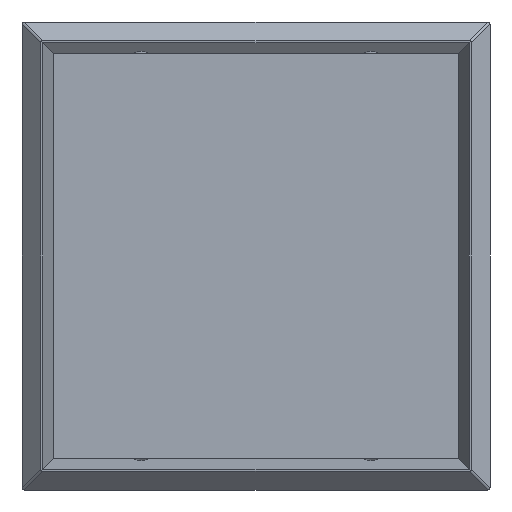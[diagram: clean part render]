
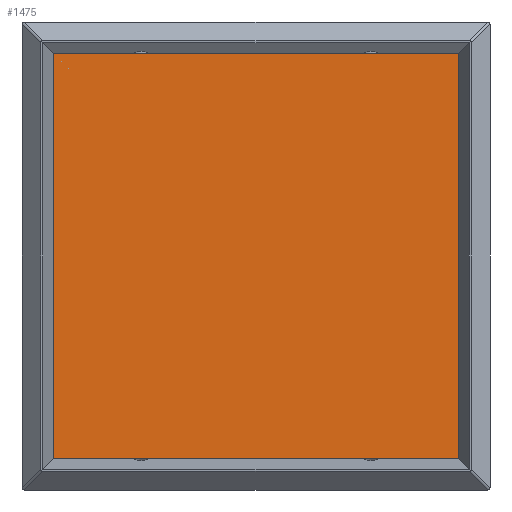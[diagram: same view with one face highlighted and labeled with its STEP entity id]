
A CAD part, front view. The second image highlights one B-rep face of the part: STEP entity #1475.
In plain terms, the highlighted planar face has unit normal (0, -1, 0).
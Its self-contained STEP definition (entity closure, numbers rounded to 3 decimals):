
#495 = CARTESIAN_POINT ( 'NONE',  ( 162.5, 0., 162.5 ) ) ;
#631 = EDGE_CURVE ( 'NONE', #1828, #1833, #8501, .T. ) ;
#811 = EDGE_CURVE ( 'NONE', #1706, #1822, #8878, .T. ) ;
#822 = EDGE_CURVE ( 'NONE', #1833, #1706, #8886, .T. ) ;
#824 = EDGE_CURVE ( 'NONE', #1822, #1828, #8904, .T. ) ;
#1211 = CARTESIAN_POINT ( 'NONE',  ( 162.5, 0., -162.5 ) ) ;
#1231 = CARTESIAN_POINT ( 'NONE',  ( -162.5, 0., -162.5 ) ) ;
#1242 = CARTESIAN_POINT ( 'NONE',  ( -162.5, 0., 162.5 ) ) ;
#1475 = ADVANCED_FACE ( 'NONE', ( #7028 ), #6773, .F. ) ;
#1706 = VERTEX_POINT ( 'NONE', #495 ) ;
#1822 = VERTEX_POINT ( 'NONE', #1211 ) ;
#1828 = VERTEX_POINT ( 'NONE', #1231 ) ;
#1833 = VERTEX_POINT ( 'NONE', #1242 ) ;
#2551 = EDGE_LOOP ( 'NONE', ( #5449, #5441, #5452, #5460 ) ) ;
#3986 = CARTESIAN_POINT ( 'NONE',  ( -162.5, 0., -162.5 ) ) ;
#3996 = DIRECTION ( 'NONE',  ( 0., 0., 1. ) ) ;
#4766 = AXIS2_PLACEMENT_3D ( 'NONE', #6682, #6757, #6724 ) ;
#5441 = ORIENTED_EDGE ( 'NONE', *, *, #822, .F. ) ;
#5449 = ORIENTED_EDGE ( 'NONE', *, *, #811, .F. ) ;
#5452 = ORIENTED_EDGE ( 'NONE', *, *, #631, .F. ) ;
#5460 = ORIENTED_EDGE ( 'NONE', *, *, #824, .F. ) ;
#6042 = CARTESIAN_POINT ( 'NONE',  ( -162.5, 0., -162.5 ) ) ;
#6070 = CARTESIAN_POINT ( 'NONE',  ( -162.5, 0., 162.5 ) ) ;
#6071 = CARTESIAN_POINT ( 'NONE',  ( 162.5, 0., -162.5 ) ) ;
#6074 = DIRECTION ( 'NONE',  ( 0., 0., -1. ) ) ;
#6116 = DIRECTION ( 'NONE',  ( 1., 0., 0. ) ) ;
#6243 = DIRECTION ( 'NONE',  ( -1., 0., 0. ) ) ;
#6682 = CARTESIAN_POINT ( 'NONE',  ( 0., 0., 0. ) ) ;
#6724 = DIRECTION ( 'NONE',  ( 0., 0., 1. ) ) ;
#6757 = DIRECTION ( 'NONE',  ( 0., 1., 0. ) ) ;
#6773 = PLANE ( 'NONE',  #4766 ) ;
#7028 = FACE_OUTER_BOUND ( 'NONE', #2551, .T. ) ;
#8488 = VECTOR ( 'NONE', #3996, 1000. ) ;
#8501 = LINE ( 'NONE', #3986, #8488 ) ;
#8878 = LINE ( 'NONE', #6071, #8881 ) ;
#8881 = VECTOR ( 'NONE', #6074, 1000. ) ;
#8886 = LINE ( 'NONE', #6070, #8903 ) ;
#8903 = VECTOR ( 'NONE', #6116, 1000. ) ;
#8904 = LINE ( 'NONE', #6042, #8907 ) ;
#8907 = VECTOR ( 'NONE', #6243, 1000. ) ;
